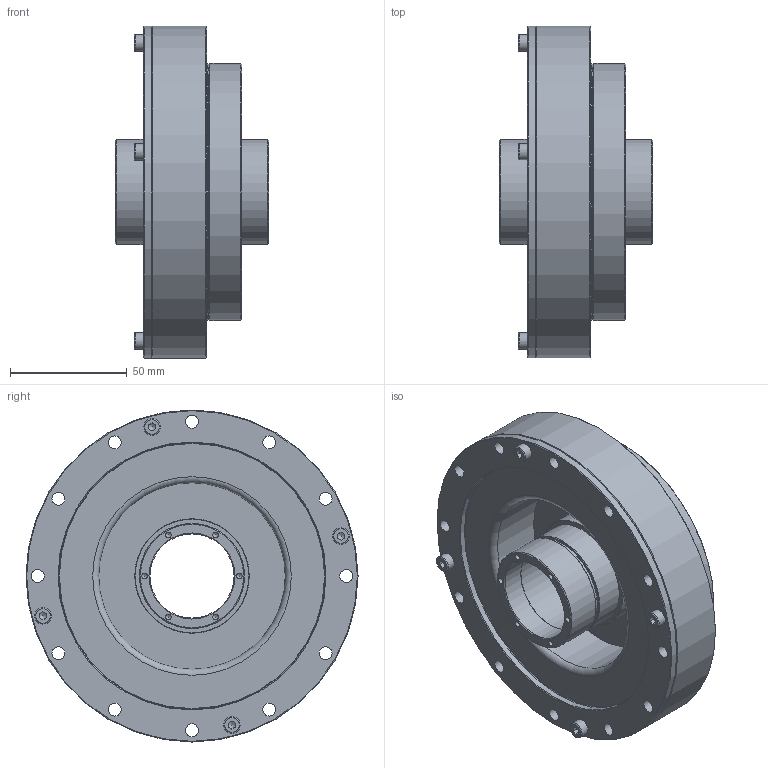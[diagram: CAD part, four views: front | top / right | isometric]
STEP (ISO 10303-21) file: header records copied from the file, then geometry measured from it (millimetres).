
FILE_DESCRIPTION(/* description */ (''),/* implementation_level */ '2;1');
FILE_NAME(/* name */ '\\Hiwin.tw\dfs\TB00F\研發課二組\\X2\6A5F5BC67D1A\X0\\97.同仁共享區 (機密級)\H11\\X2\6B236021\X0\\2023專案追蹤\2.型錄\\X2\6A21578B\X0\\官網3D檔(NEW)\DGH-PH\DGH-32-XX-PH.stp',/* time_stamp */ '2024-08-27T09:27:00+08:00',/* author */ ('hienya'),/* organization */ (''),/* preprocessor_version */ 'ST-DEVELOPER v15.2',/* originating_system */ 'Autodesk Inventor 2014',/* authorisation */ '');
FILE_SCHEMA (('AUTOMOTIVE_DESIGN { 1 0 10303 214 3 1 1 }'));
Length unit declared in the file: centimetre
Products named in the file (1): DGH-32-XX-PH
Bounding box: 65.5 x 142 x 142 mm (x, y, z)
Volume: 405176.4 mm3; surface area: 87195.1 mm2
Topology: 1 solids, 1 shells, 454 faces, 1103 edges, 694 vertices
Faces by surface type: cylinder 179, plane 139, torus 57, cone 56, sphere 23
Full cylindrical faces by diameter (mm): 2.459 x12, 4.134 x16, 5.5 x28, 7 x8, 8 x4, 36 x2, 36.5 x1, 42.5 x1, 45 x3, 47 x1, 49 x1, 63.04 x1, 75.82 x1, 79.75 x1, 79.761 x1, 110 x2, 114 x1, 122 x1, 142 x2
Entity records: 11557 total; most frequent: DIRECTION 2238, CARTESIAN_POINT 1931, ORIENTED_EDGE 1704, AXIS2_PLACEMENT_3D 1025, EDGE_CURVE 806, EDGE_LOOP 700, VERTEX_POINT 574, CIRCLE 570
